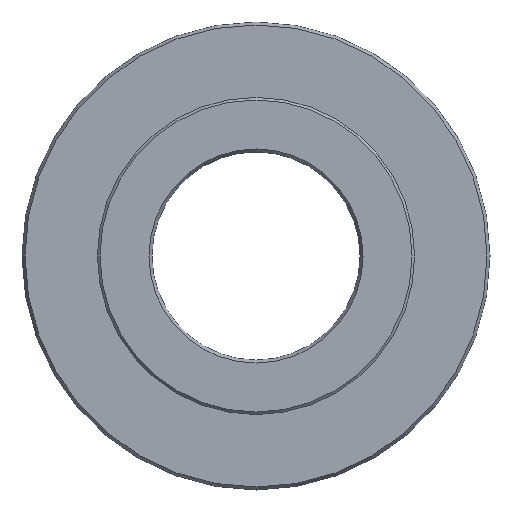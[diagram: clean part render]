
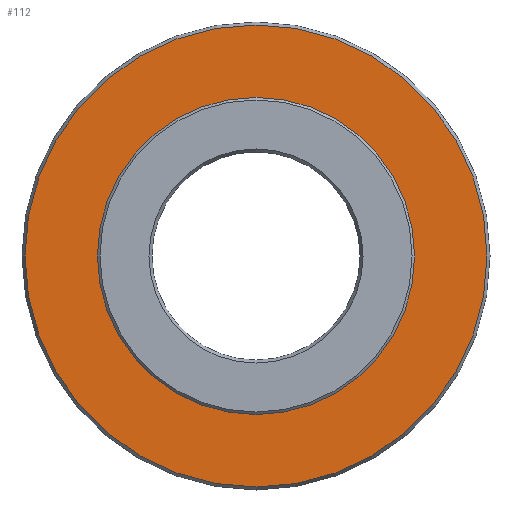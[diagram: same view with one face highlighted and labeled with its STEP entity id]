
A CAD part, left-side view. The second image highlights one B-rep face of the part: STEP entity #112.
In plain terms, the highlighted planar face has unit normal (-1, 0, 0).
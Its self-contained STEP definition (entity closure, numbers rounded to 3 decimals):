
#107=PLANE('',#279);
#112=ADVANCED_FACE('',(#131,#132),#107,.T.);
#131=FACE_BOUND('',#163,.T.);
#132=FACE_BOUND('',#164,.T.);
#163=EDGE_LOOP('',(#195));
#164=EDGE_LOOP('',(#196));
#195=ORIENTED_EDGE('',*,*,#243,.T.);
#196=ORIENTED_EDGE('',*,*,#244,.T.);
#227=VERTEX_POINT('',#379);
#228=VERTEX_POINT('',#381);
#243=EDGE_CURVE('',#227,#227,#259,.T.);
#244=EDGE_CURVE('',#228,#228,#260,.T.);
#259=CIRCLE('',#277,44.423);
#260=CIRCLE('',#278,30.5);
#277=AXIS2_PLACEMENT_3D('',#378,#314,#315);
#278=AXIS2_PLACEMENT_3D('',#380,#316,#317);
#279=AXIS2_PLACEMENT_3D('',#382,#318,#319);
#314=DIRECTION('',(-1.,0.,0.));
#315=DIRECTION('',(0.,0.,1.));
#316=DIRECTION('',(1.,0.,0.));
#317=DIRECTION('',(0.,0.,-1.));
#318=DIRECTION('',(-1.,0.,0.));
#319=DIRECTION('',(0.,0.,1.));
#378=CARTESIAN_POINT('',(0.,0.,0.));
#379=CARTESIAN_POINT('',(0.,0.,44.423));
#380=CARTESIAN_POINT('',(0.,0.,0.));
#381=CARTESIAN_POINT('',(0.,0.,-30.5));
#382=CARTESIAN_POINT('',(0.,45.,0.));
